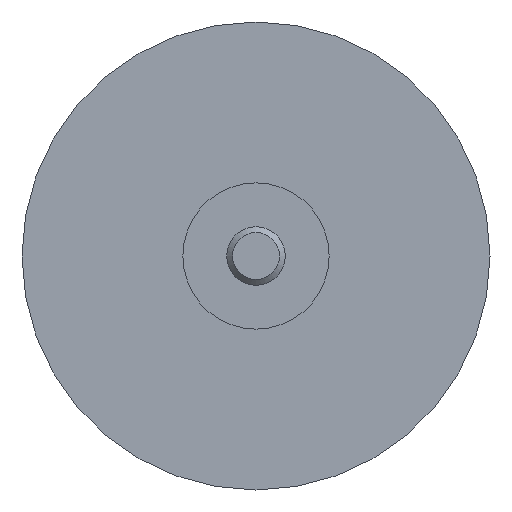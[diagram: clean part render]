
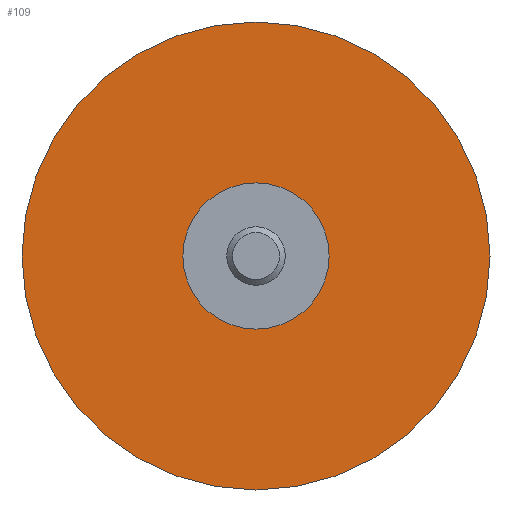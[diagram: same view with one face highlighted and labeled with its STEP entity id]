
A CAD part, left-side view. The second image highlights one B-rep face of the part: STEP entity #109.
In plain terms, the highlighted planar face has unit normal (-1, 0, 0).
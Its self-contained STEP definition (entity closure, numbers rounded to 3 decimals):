
#47 = DIRECTION ( 'NONE',  ( -1., 0., 0. ) ) ;
#48 = AXIS2_PLACEMENT_3D ( 'NONE', #364, #57, #213 ) ;
#55 = CARTESIAN_POINT ( 'NONE',  ( 0., 0., 0. ) ) ;
#57 = DIRECTION ( 'NONE',  ( -1., 0., 0. ) ) ;
#58 = EDGE_CURVE ( 'NONE', #249, #249, #274, .T. ) ;
#72 = EDGE_LOOP ( 'NONE', ( #137 ) ) ;
#78 = AXIS2_PLACEMENT_3D ( 'NONE', #55, #211, #307 ) ;
#97 = FACE_BOUND ( 'NONE', #184, .T. ) ;
#103 = AXIS2_PLACEMENT_3D ( 'NONE', #329, #47, #208 ) ;
#109 = ADVANCED_FACE ( 'PLANAR_0', ( #97, #235 ), #336, .F. ) ;
#111 = ORIENTED_EDGE ( 'NONE', *, *, #58, .F. ) ;
#137 = ORIENTED_EDGE ( 'NONE', *, *, #162, .T. ) ;
#162 = EDGE_CURVE ( 'NONE', #206, #206, #247, .T. ) ;
#184 = EDGE_LOOP ( 'NONE', ( #111 ) ) ;
#206 = VERTEX_POINT ( 'NONE', #299 ) ;
#208 = DIRECTION ( 'NONE',  ( 0., 0., 1. ) ) ;
#211 = DIRECTION ( 'NONE',  ( 1., 0., 0. ) ) ;
#213 = DIRECTION ( 'NONE',  ( 0., 0., 1. ) ) ;
#235 = FACE_OUTER_BOUND ( 'NONE', #72, .T. ) ;
#247 = CIRCLE ( 'NONE', #48, 32. ) ;
#249 = VERTEX_POINT ( 'NONE', #354 ) ;
#274 = CIRCLE ( 'NONE', #103, 10. ) ;
#299 = CARTESIAN_POINT ( 'NONE',  ( 0., 0., 32. ) ) ;
#307 = DIRECTION ( 'NONE',  ( 0., 0., -1. ) ) ;
#329 = CARTESIAN_POINT ( 'NONE',  ( 0., 0., 0. ) ) ;
#336 = PLANE ( 'NONE',  #78 ) ;
#354 = CARTESIAN_POINT ( 'NONE',  ( 0., 0., 10. ) ) ;
#364 = CARTESIAN_POINT ( 'NONE',  ( 0., 0., 0. ) ) ;
